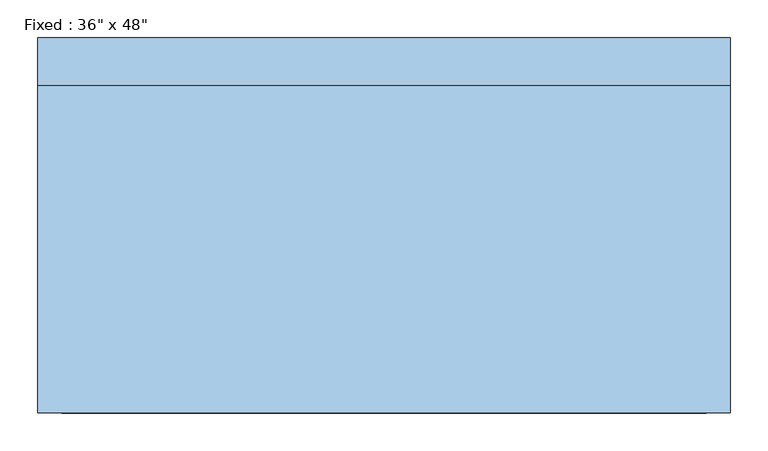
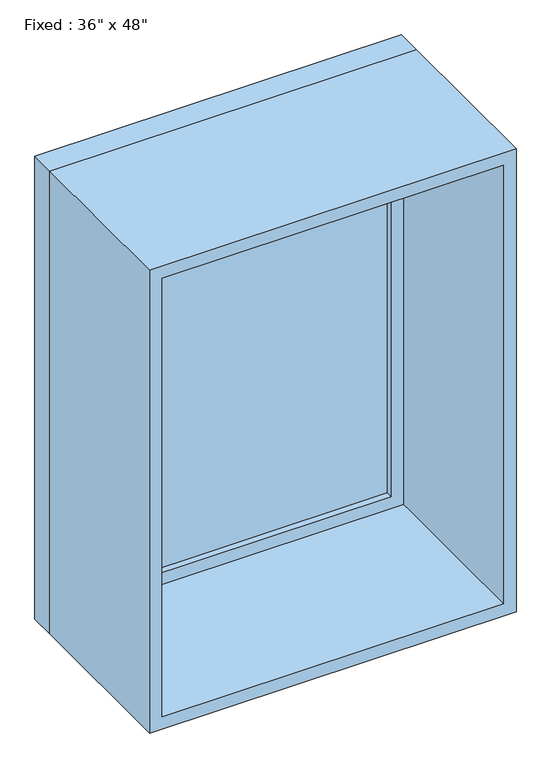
"""IFC4 building model written with IfcOpenShell, lengths in millimetres: window geometry."""

from ifc_helpers import new_model, si_unit, frame, origin, place, context, project, spatial, polyline, outline, extrude, source, transform, mapped, element, save


def window_4cc3bb0a(model_context):
    return source(origin(), model_context, "Body", "SweptSolid", [
        extrude(outline(polyline([(355.6, 200.025), (-431.8, 200.025), (-431.8, 212.725), (355.6, 212.725), (355.6, 200.025)])), frame((0.0, 0.0, 977.9), z_axis=(0.0, 0.0, 1.0), x_axis=(1.0, 0.0, 0.0)), (0.0, 0.0, 1.0), 1092.2),
        extrude(outline(polyline([(2114.55, -476.25), (933.45, -476.25), (933.45, 400.05), (2114.55, 400.05), (2114.55, -476.25)]), holes=[polyline([(2070.1, -431.8), (2070.1, 355.6), (977.9, 355.6), (977.9, -431.8), (2070.1, -431.8)])]), frame((0.0, 184.15, 0.0), z_axis=(0.0, 1.0, 0.0), x_axis=(0.0, 0.0, 1.0)), (0.0, 0.0, 1.0), 44.45),
        extrude(outline(polyline([(2133.6, -495.3), (914.4, -495.3), (914.4, 419.1), (2133.6, 419.1), (2133.6, -495.3)]), holes=[polyline([(2101.85, -463.55), (2101.85, 387.35), (946.15, 387.35), (946.15, -463.55), (2101.85, -463.55)])]), frame((0.0, -247.65, 0.0), z_axis=(0.0, 1.0, 0.0), x_axis=(0.0, 0.0, 1.0)), (0.0, 0.0, 1.0), 431.8),
        extrude(outline(polyline([(2133.6, 419.1), (2133.6, -495.3), (914.4, -495.3), (914.4, 419.1), (2133.6, 419.1)]), holes=[polyline([(2114.55, 400.05), (933.45, 400.05), (933.45, -476.25), (2114.55, -476.25), (2114.55, 400.05)])]), frame((0.0, 184.15, 0.0), z_axis=(0.0, 1.0, 0.0), x_axis=(0.0, 0.0, 1.0)), (0.0, 0.0, 1.0), 63.5),
    ])


if __name__ == "__main__":
    model = new_model("IFC4")
    model_context = context("Model", 3, world=origin())
    ifc_project = project(units=[si_unit("LENGTHUNIT", "METRE", prefix="MILLI")], contexts=[model_context])
    site = spatial("IfcSite", under=ifc_project)
    building = spatial("IfcBuilding", under=site)
    placement = place(None, origin())
    window_shape = window_4cc3bb0a(model_context)
    element("IfcWindow", 1, ObjectType="Fixed : 36\" x 48\"", at=placement, inside=building, context=model_context, shape_type="MappedRepresentation", body=[
        mapped(window_shape, transform((0.0, 0.0, 0.0), x_axis=(1.0, 0.0, 0.0), y_axis=(0.0, 1.0, 0.0), z_axis=(0.0, 0.0, 1.0))),
    ])
    save(model, "model.ifc")
